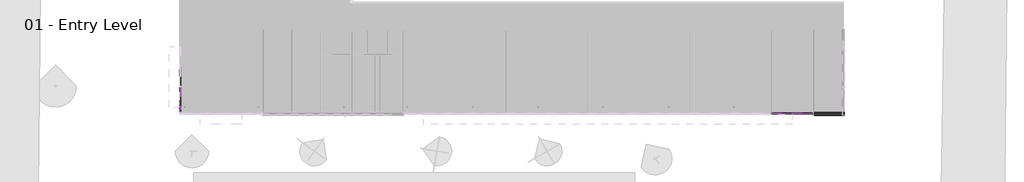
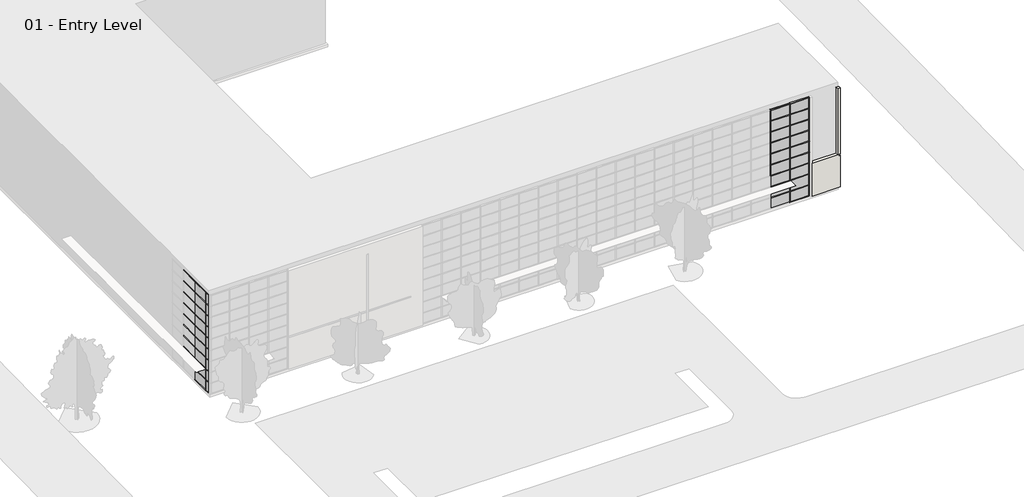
# One storey, part 6 of 34: 90 members, 36 plates, 1 wall.
"""IFC4 building model written with IfcOpenShell, lengths in millimetres."""

from ifc_helpers import new_model, si_unit, origin, place, context, project, spatial, faceted_brep, transform, mapped, element, save
from components import member_2b49869a, member_75074519, member_391b434c, member_9e90ae50, member_b9f3750b, member_757d0d80, system_panel_glazed_1b9d6098, system_panel_glazed_70da479d, system_panel_glazed_9ce660bb, system_panel_glazed_81ef7bb2, system_panel_solid_b376696c, system_panel_solid_77e8b053, system_panel_solid_a9b7ce64, system_panel_solid_b759d50d

model = new_model("IFC4")

# Units and contexts
model_context = context("Model", 3, world=origin())
ifc_project = project(units=[si_unit("LENGTHUNIT", "METRE", prefix="MILLI")], contexts=[model_context])

# Site, building, storey
site = spatial("IfcSite", under=ifc_project)
building = spatial("IfcBuilding", under=site)
storey = spatial("IfcBuildingStorey", under=building, Name="01 - Entry Level", Elevation=0.0)

# Members
placement = place(None, origin())
member_shape = member_2b49869a(model_context)
element("IfcMember", 1, ObjectType="Rectangular Mullion : 2.5\" x 5\" rectangular", at=placement, inside=storey, context=model_context, shape_type="MappedRepresentation", body=[
    mapped(member_shape, transform((59043.2207476, -47.7, 9753.6), x_axis=(1.0, 0.0, 0.0), y_axis=(0.0, -1.0, 0.0), z_axis=(0.0, 0.0, -1.0))),
])
element("IfcMember", 2, ObjectType="Rectangular Mullion : 2.5\" x 5\" rectangular", at=placement, inside=storey, context=model_context, shape_type="MappedRepresentation", body=[
    mapped(member_shape, transform((61075.2207476, -47.7, 9753.6), x_axis=(1.0, 0.0, 0.0), y_axis=(0.0, -1.0, 0.0), z_axis=(0.0, 0.0, -1.0))),
])
element("IfcMember", 3, ObjectType="Rectangular Mullion : 2.5\" x 5\" rectangular", at=placement, inside=storey, context=model_context, shape_type="MappedRepresentation", body=[
    mapped(member_shape, transform((63107.2207476, -47.7, 9753.6), x_axis=(1.0, 0.0, 0.0), y_axis=(0.0, -1.0, 0.0), z_axis=(0.0, 0.0, -1.0))),
])
element("IfcMember", 4, ObjectType="Rectangular Mullion : 2.5\" x 5\" rectangular", at=placement, inside=storey, context=model_context, shape_type="MappedRepresentation", body=[
    mapped(member_shape, transform((178.7207476, 600.0, 9753.6), x_axis=(0.0, -1.0, 0.0), y_axis=(-1.0, 0.0, 0.0), z_axis=(0.0, 0.0, -1.0))),
])
member_2_shape = member_75074519(model_context)
element("IfcMember", 5, ObjectType="Rectangular Mullion : 2.5\" x 5\" rectangular", at=placement, inside=storey, context=model_context, shape_type="MappedRepresentation", body=[
    mapped(member_2_shape, transform((63145.3207476, -47.7, 9753.6), x_axis=(1.0, 0.0, 0.0), y_axis=(0.0, -1.0, 0.0), z_axis=(0.0, 0.0, -1.0))),
])
member_3_shape = member_391b434c(model_context)
element("IfcMember", 6, ObjectType="Rectangular Mullion : 2.5\" x 5\" rectangular", at=placement, inside=storey, context=model_context, shape_type="MappedRepresentation", body=[
    mapped(member_3_shape, transform((178.7207476, 2663.75, 10972.8), x_axis=(0.0, 0.0, 1.0), y_axis=(-1.0, 0.0, 0.0), z_axis=(0.0, -1.0, 0.0))),
])
element("IfcMember", 7, ObjectType="Rectangular Mullion : 2.5\" x 5\" rectangular", at=placement, inside=storey, context=model_context, shape_type="MappedRepresentation", body=[
    mapped(member_3_shape, transform((61043.4707476, -47.7, 10972.8), x_axis=(0.0, 0.0, 1.0), y_axis=(0.0, -1.0, 0.0), z_axis=(1.0, 0.0, 0.0))),
])
element("IfcMember", 8, ObjectType="Rectangular Mullion : 2.5\" x 5\" rectangular", at=placement, inside=storey, context=model_context, shape_type="MappedRepresentation", body=[
    mapped(member_3_shape, transform((63075.4707476, -47.7, 10972.8), x_axis=(0.0, 0.0, 1.0), y_axis=(0.0, -1.0, 0.0), z_axis=(1.0, 0.0, 0.0))),
])
element("IfcMember", 9, ObjectType="Rectangular Mullion : 2.5\" x 5\" rectangular", at=placement, inside=storey, context=model_context, shape_type="MappedRepresentation", body=[
    mapped(member_3_shape, transform((178.7207476, 631.75, 10972.8), x_axis=(0.0, 0.0, 1.0), y_axis=(-1.0, 0.0, 0.0), z_axis=(0.0, -1.0, 0.0))),
])
element("IfcMember", 10, ObjectType="Rectangular Mullion : 2.5\" x 5\" rectangular", at=placement, inside=storey, context=model_context, shape_type="MappedRepresentation", body=[
    mapped(member_3_shape, transform((178.7207476, 2600.25, 0.0), x_axis=(0.0, 0.0, -1.0), y_axis=(-1.0, 0.0, 0.0), z_axis=(0.0, 1.0, 0.0))),
])
element("IfcMember", 11, ObjectType="Rectangular Mullion : 2.5\" x 5\" rectangular", at=placement, inside=storey, context=model_context, shape_type="MappedRepresentation", body=[
    mapped(member_3_shape, transform((61106.9707476, -47.7, 0.0), x_axis=(0.0, 0.0, -1.0), y_axis=(0.0, -1.0, 0.0), z_axis=(-1.0, 0.0, 0.0))),
])
member_4_shape = member_9e90ae50(model_context)
element("IfcMember", 12, ObjectType="Rectangular Mullion : 2.5\" x 5\" rectangular", at=placement, inside=storey, context=model_context, shape_type="MappedRepresentation", body=[
    mapped(member_4_shape, transform((178.7207476, 2663.75, 1219.2), x_axis=(0.0, 0.0, 1.0), y_axis=(-1.0, 0.0, 0.0), z_axis=(0.0, -1.0, 0.0))),
])
element("IfcMember", 13, ObjectType="Rectangular Mullion : 2.5\" x 5\" rectangular", at=placement, inside=storey, context=model_context, shape_type="MappedRepresentation", body=[
    mapped(member_4_shape, transform((178.7207476, 631.75, 1219.2), x_axis=(0.0, 0.0, 1.0), y_axis=(-1.0, 0.0, 0.0), z_axis=(0.0, -1.0, 0.0))),
])
element("IfcMember", 14, ObjectType="Rectangular Mullion : 2.5\" x 5\" rectangular", at=placement, inside=storey, context=model_context, shape_type="MappedRepresentation", body=[
    mapped(member_4_shape, transform((178.7207476, 2663.75, 2438.4), x_axis=(0.0, 0.0, 1.0), y_axis=(-1.0, 0.0, 0.0), z_axis=(0.0, -1.0, 0.0))),
])
element("IfcMember", 15, ObjectType="Rectangular Mullion : 2.5\" x 5\" rectangular", at=placement, inside=storey, context=model_context, shape_type="MappedRepresentation", body=[
    mapped(member_4_shape, transform((178.7207476, 631.75, 2438.4), x_axis=(0.0, 0.0, 1.0), y_axis=(-1.0, 0.0, 0.0), z_axis=(0.0, -1.0, 0.0))),
])
element("IfcMember", 16, ObjectType="Rectangular Mullion : 2.5\" x 5\" rectangular", at=placement, inside=storey, context=model_context, shape_type="MappedRepresentation", body=[
    mapped(member_4_shape, transform((178.7207476, 2663.75, 3657.6), x_axis=(0.0, 0.0, 1.0), y_axis=(-1.0, 0.0, 0.0), z_axis=(0.0, -1.0, 0.0))),
])
element("IfcMember", 17, ObjectType="Rectangular Mullion : 2.5\" x 5\" rectangular", at=placement, inside=storey, context=model_context, shape_type="MappedRepresentation", body=[
    mapped(member_4_shape, transform((178.7207476, 631.75, 3657.6), x_axis=(0.0, 0.0, 1.0), y_axis=(-1.0, 0.0, 0.0), z_axis=(0.0, -1.0, 0.0))),
])
element("IfcMember", 18, ObjectType="Rectangular Mullion : 2.5\" x 5\" rectangular", at=placement, inside=storey, context=model_context, shape_type="MappedRepresentation", body=[
    mapped(member_4_shape, transform((178.7207476, 2663.75, 4876.8), x_axis=(0.0, 0.0, 1.0), y_axis=(-1.0, 0.0, 0.0), z_axis=(0.0, -1.0, 0.0))),
])
element("IfcMember", 19, ObjectType="Rectangular Mullion : 2.5\" x 5\" rectangular", at=placement, inside=storey, context=model_context, shape_type="MappedRepresentation", body=[
    mapped(member_4_shape, transform((178.7207476, 631.75, 4876.8), x_axis=(0.0, 0.0, 1.0), y_axis=(-1.0, 0.0, 0.0), z_axis=(0.0, -1.0, 0.0))),
])
element("IfcMember", 20, ObjectType="Rectangular Mullion : 2.5\" x 5\" rectangular", at=placement, inside=storey, context=model_context, shape_type="MappedRepresentation", body=[
    mapped(member_4_shape, transform((178.7207476, 2663.75, 6096.0), x_axis=(0.0, 0.0, 1.0), y_axis=(-1.0, 0.0, 0.0), z_axis=(0.0, -1.0, 0.0))),
])
element("IfcMember", 21, ObjectType="Rectangular Mullion : 2.5\" x 5\" rectangular", at=placement, inside=storey, context=model_context, shape_type="MappedRepresentation", body=[
    mapped(member_4_shape, transform((178.7207476, 631.75, 6096.0), x_axis=(0.0, 0.0, 1.0), y_axis=(-1.0, 0.0, 0.0), z_axis=(0.0, -1.0, 0.0))),
])
element("IfcMember", 22, ObjectType="Rectangular Mullion : 2.5\" x 5\" rectangular", at=placement, inside=storey, context=model_context, shape_type="MappedRepresentation", body=[
    mapped(member_4_shape, transform((178.7207476, 2663.75, 7315.2), x_axis=(0.0, 0.0, 1.0), y_axis=(-1.0, 0.0, 0.0), z_axis=(0.0, -1.0, 0.0))),
])
element("IfcMember", 23, ObjectType="Rectangular Mullion : 2.5\" x 5\" rectangular", at=placement, inside=storey, context=model_context, shape_type="MappedRepresentation", body=[
    mapped(member_4_shape, transform((178.7207476, 631.75, 7315.2), x_axis=(0.0, 0.0, 1.0), y_axis=(-1.0, 0.0, 0.0), z_axis=(0.0, -1.0, 0.0))),
])
element("IfcMember", 24, ObjectType="Rectangular Mullion : 2.5\" x 5\" rectangular", at=placement, inside=storey, context=model_context, shape_type="MappedRepresentation", body=[
    mapped(member_4_shape, transform((178.7207476, 2663.75, 8534.4), x_axis=(0.0, 0.0, 1.0), y_axis=(-1.0, 0.0, 0.0), z_axis=(0.0, -1.0, 0.0))),
])
element("IfcMember", 25, ObjectType="Rectangular Mullion : 2.5\" x 5\" rectangular", at=placement, inside=storey, context=model_context, shape_type="MappedRepresentation", body=[
    mapped(member_4_shape, transform((178.7207476, 631.75, 8534.4), x_axis=(0.0, 0.0, 1.0), y_axis=(-1.0, 0.0, 0.0), z_axis=(0.0, -1.0, 0.0))),
])
element("IfcMember", 26, ObjectType="Rectangular Mullion : 2.5\" x 5\" rectangular", at=placement, inside=storey, context=model_context, shape_type="MappedRepresentation", body=[
    mapped(member_4_shape, transform((178.7207476, 2663.75, 9753.6), x_axis=(0.0, 0.0, 1.0), y_axis=(-1.0, 0.0, 0.0), z_axis=(0.0, -1.0, 0.0))),
])
element("IfcMember", 27, ObjectType="Rectangular Mullion : 2.5\" x 5\" rectangular", at=placement, inside=storey, context=model_context, shape_type="MappedRepresentation", body=[
    mapped(member_4_shape, transform((178.7207476, 631.75, 9753.6), x_axis=(0.0, 0.0, 1.0), y_axis=(-1.0, 0.0, 0.0), z_axis=(0.0, -1.0, 0.0))),
])
element("IfcMember", 28, ObjectType="Rectangular Mullion : 2.5\" x 5\" rectangular", at=placement, inside=storey, context=model_context, shape_type="MappedRepresentation", body=[
    mapped(member_4_shape, transform((61043.4707476, -47.7, 1219.2), x_axis=(0.0, 0.0, 1.0), y_axis=(0.0, -1.0, 0.0), z_axis=(1.0, 0.0, 0.0))),
])
element("IfcMember", 29, ObjectType="Rectangular Mullion : 2.5\" x 5\" rectangular", at=placement, inside=storey, context=model_context, shape_type="MappedRepresentation", body=[
    mapped(member_4_shape, transform((63075.4707476, -47.7, 1219.2), x_axis=(0.0, 0.0, 1.0), y_axis=(0.0, -1.0, 0.0), z_axis=(1.0, 0.0, 0.0))),
])
element("IfcMember", 30, ObjectType="Rectangular Mullion : 2.5\" x 5\" rectangular", at=placement, inside=storey, context=model_context, shape_type="MappedRepresentation", body=[
    mapped(member_4_shape, transform((61043.4707476, -47.7, 2438.4), x_axis=(0.0, 0.0, 1.0), y_axis=(0.0, -1.0, 0.0), z_axis=(1.0, 0.0, 0.0))),
])
element("IfcMember", 31, ObjectType="Rectangular Mullion : 2.5\" x 5\" rectangular", at=placement, inside=storey, context=model_context, shape_type="MappedRepresentation", body=[
    mapped(member_4_shape, transform((63075.4707476, -47.7, 2438.4), x_axis=(0.0, 0.0, 1.0), y_axis=(0.0, -1.0, 0.0), z_axis=(1.0, 0.0, 0.0))),
])
element("IfcMember", 32, ObjectType="Rectangular Mullion : 2.5\" x 5\" rectangular", at=placement, inside=storey, context=model_context, shape_type="MappedRepresentation", body=[
    mapped(member_4_shape, transform((61043.4707476, -47.7, 3657.6), x_axis=(0.0, 0.0, 1.0), y_axis=(0.0, -1.0, 0.0), z_axis=(1.0, 0.0, 0.0))),
])
element("IfcMember", 33, ObjectType="Rectangular Mullion : 2.5\" x 5\" rectangular", at=placement, inside=storey, context=model_context, shape_type="MappedRepresentation", body=[
    mapped(member_4_shape, transform((63075.4707476, -47.7, 3657.6), x_axis=(0.0, 0.0, 1.0), y_axis=(0.0, -1.0, 0.0), z_axis=(1.0, 0.0, 0.0))),
])
element("IfcMember", 34, ObjectType="Rectangular Mullion : 2.5\" x 5\" rectangular", at=placement, inside=storey, context=model_context, shape_type="MappedRepresentation", body=[
    mapped(member_4_shape, transform((61043.4707476, -47.7, 4876.8), x_axis=(0.0, 0.0, 1.0), y_axis=(0.0, -1.0, 0.0), z_axis=(1.0, 0.0, 0.0))),
])
element("IfcMember", 35, ObjectType="Rectangular Mullion : 2.5\" x 5\" rectangular", at=placement, inside=storey, context=model_context, shape_type="MappedRepresentation", body=[
    mapped(member_4_shape, transform((63075.4707476, -47.7, 4876.8), x_axis=(0.0, 0.0, 1.0), y_axis=(0.0, -1.0, 0.0), z_axis=(1.0, 0.0, 0.0))),
])
element("IfcMember", 36, ObjectType="Rectangular Mullion : 2.5\" x 5\" rectangular", at=placement, inside=storey, context=model_context, shape_type="MappedRepresentation", body=[
    mapped(member_4_shape, transform((61043.4707476, -47.7, 6096.0), x_axis=(0.0, 0.0, 1.0), y_axis=(0.0, -1.0, 0.0), z_axis=(1.0, 0.0, 0.0))),
])
element("IfcMember", 37, ObjectType="Rectangular Mullion : 2.5\" x 5\" rectangular", at=placement, inside=storey, context=model_context, shape_type="MappedRepresentation", body=[
    mapped(member_4_shape, transform((63075.4707476, -47.7, 6096.0), x_axis=(0.0, 0.0, 1.0), y_axis=(0.0, -1.0, 0.0), z_axis=(1.0, 0.0, 0.0))),
])
element("IfcMember", 38, ObjectType="Rectangular Mullion : 2.5\" x 5\" rectangular", at=placement, inside=storey, context=model_context, shape_type="MappedRepresentation", body=[
    mapped(member_4_shape, transform((61043.4707476, -47.7, 7315.2), x_axis=(0.0, 0.0, 1.0), y_axis=(0.0, -1.0, 0.0), z_axis=(1.0, 0.0, 0.0))),
])
element("IfcMember", 39, ObjectType="Rectangular Mullion : 2.5\" x 5\" rectangular", at=placement, inside=storey, context=model_context, shape_type="MappedRepresentation", body=[
    mapped(member_4_shape, transform((63075.4707476, -47.7, 7315.2), x_axis=(0.0, 0.0, 1.0), y_axis=(0.0, -1.0, 0.0), z_axis=(1.0, 0.0, 0.0))),
])
element("IfcMember", 40, ObjectType="Rectangular Mullion : 2.5\" x 5\" rectangular", at=placement, inside=storey, context=model_context, shape_type="MappedRepresentation", body=[
    mapped(member_4_shape, transform((61043.4707476, -47.7, 8534.4), x_axis=(0.0, 0.0, 1.0), y_axis=(0.0, -1.0, 0.0), z_axis=(1.0, 0.0, 0.0))),
])
element("IfcMember", 41, ObjectType="Rectangular Mullion : 2.5\" x 5\" rectangular", at=placement, inside=storey, context=model_context, shape_type="MappedRepresentation", body=[
    mapped(member_4_shape, transform((63075.4707476, -47.7, 8534.4), x_axis=(0.0, 0.0, 1.0), y_axis=(0.0, -1.0, 0.0), z_axis=(1.0, 0.0, 0.0))),
])
element("IfcMember", 42, ObjectType="Rectangular Mullion : 2.5\" x 5\" rectangular", at=placement, inside=storey, context=model_context, shape_type="MappedRepresentation", body=[
    mapped(member_4_shape, transform((61043.4707476, -47.7, 9753.6), x_axis=(0.0, 0.0, 1.0), y_axis=(0.0, -1.0, 0.0), z_axis=(1.0, 0.0, 0.0))),
])
element("IfcMember", 43, ObjectType="Rectangular Mullion : 2.5\" x 5\" rectangular", at=placement, inside=storey, context=model_context, shape_type="MappedRepresentation", body=[
    mapped(member_4_shape, transform((63075.4707476, -47.7, 9753.6), x_axis=(0.0, 0.0, 1.0), y_axis=(0.0, -1.0, 0.0), z_axis=(1.0, 0.0, 0.0))),
])
element("IfcMember", 44, ObjectType="Rectangular Mullion : 2.5\" x 5\" rectangular", at=placement, inside=storey, context=model_context, shape_type="MappedRepresentation", body=[
    mapped(member_shape, transform((61075.2207476, -47.7, 0.0), x_axis=(1.0, 0.0, 0.0), y_axis=(0.0, -1.0, 0.0), z_axis=(0.0, 0.0, -1.0))),
])
element("IfcMember", 45, ObjectType="Rectangular Mullion : 2.5\" x 5\" rectangular", at=placement, inside=storey, context=model_context, shape_type="MappedRepresentation", body=[
    mapped(member_shape, transform((63107.2207476, -47.7, 0.0), x_axis=(1.0, 0.0, 0.0), y_axis=(0.0, -1.0, 0.0), z_axis=(0.0, 0.0, -1.0))),
])
element("IfcMember", 46, ObjectType="Rectangular Mullion : 2.5\" x 5\" rectangular", at=placement, inside=storey, context=model_context, shape_type="MappedRepresentation", body=[
    mapped(member_shape, transform((178.7207476, 600.0, 0.0), x_axis=(0.0, -1.0, 0.0), y_axis=(-1.0, 0.0, 0.0), z_axis=(0.0, 0.0, -1.0))),
])
element("IfcMember", 47, ObjectType="Rectangular Mullion : 2.5\" x 5\" rectangular", at=placement, inside=storey, context=model_context, shape_type="MappedRepresentation", body=[
    mapped(member_shape, transform((61075.2207476, -47.7, 1219.2), x_axis=(1.0, 0.0, 0.0), y_axis=(0.0, -1.0, 0.0), z_axis=(0.0, 0.0, -1.0))),
])
element("IfcMember", 48, ObjectType="Rectangular Mullion : 2.5\" x 5\" rectangular", at=placement, inside=storey, context=model_context, shape_type="MappedRepresentation", body=[
    mapped(member_shape, transform((61075.2207476, -47.7, 2438.4), x_axis=(1.0, 0.0, 0.0), y_axis=(0.0, -1.0, 0.0), z_axis=(0.0, 0.0, -1.0))),
])
element("IfcMember", 49, ObjectType="Rectangular Mullion : 2.5\" x 5\" rectangular", at=placement, inside=storey, context=model_context, shape_type="MappedRepresentation", body=[
    mapped(member_shape, transform((59043.2207476, -47.7, 3657.6), x_axis=(1.0, 0.0, 0.0), y_axis=(0.0, -1.0, 0.0), z_axis=(0.0, 0.0, -1.0))),
])
element("IfcMember", 50, ObjectType="Rectangular Mullion : 2.5\" x 5\" rectangular", at=placement, inside=storey, context=model_context, shape_type="MappedRepresentation", body=[
    mapped(member_shape, transform((61075.2207476, -47.7, 3657.6), x_axis=(1.0, 0.0, 0.0), y_axis=(0.0, -1.0, 0.0), z_axis=(0.0, 0.0, -1.0))),
])
element("IfcMember", 51, ObjectType="Rectangular Mullion : 2.5\" x 5\" rectangular", at=placement, inside=storey, context=model_context, shape_type="MappedRepresentation", body=[
    mapped(member_shape, transform((59043.2207476, -47.7, 4876.8), x_axis=(1.0, 0.0, 0.0), y_axis=(0.0, -1.0, 0.0), z_axis=(0.0, 0.0, -1.0))),
])
element("IfcMember", 52, ObjectType="Rectangular Mullion : 2.5\" x 5\" rectangular", at=placement, inside=storey, context=model_context, shape_type="MappedRepresentation", body=[
    mapped(member_shape, transform((61075.2207476, -47.7, 4876.8), x_axis=(1.0, 0.0, 0.0), y_axis=(0.0, -1.0, 0.0), z_axis=(0.0, 0.0, -1.0))),
])
element("IfcMember", 53, ObjectType="Rectangular Mullion : 2.5\" x 5\" rectangular", at=placement, inside=storey, context=model_context, shape_type="MappedRepresentation", body=[
    mapped(member_shape, transform((59043.2207476, -47.7, 6096.0), x_axis=(1.0, 0.0, 0.0), y_axis=(0.0, -1.0, 0.0), z_axis=(0.0, 0.0, -1.0))),
])
element("IfcMember", 54, ObjectType="Rectangular Mullion : 2.5\" x 5\" rectangular", at=placement, inside=storey, context=model_context, shape_type="MappedRepresentation", body=[
    mapped(member_shape, transform((61075.2207476, -47.7, 6096.0), x_axis=(1.0, 0.0, 0.0), y_axis=(0.0, -1.0, 0.0), z_axis=(0.0, 0.0, -1.0))),
])
element("IfcMember", 55, ObjectType="Rectangular Mullion : 2.5\" x 5\" rectangular", at=placement, inside=storey, context=model_context, shape_type="MappedRepresentation", body=[
    mapped(member_shape, transform((59043.2207476, -47.7, 7315.2), x_axis=(1.0, 0.0, 0.0), y_axis=(0.0, -1.0, 0.0), z_axis=(0.0, 0.0, -1.0))),
])
element("IfcMember", 56, ObjectType="Rectangular Mullion : 2.5\" x 5\" rectangular", at=placement, inside=storey, context=model_context, shape_type="MappedRepresentation", body=[
    mapped(member_shape, transform((61075.2207476, -47.7, 7315.2), x_axis=(1.0, 0.0, 0.0), y_axis=(0.0, -1.0, 0.0), z_axis=(0.0, 0.0, -1.0))),
])
element("IfcMember", 57, ObjectType="Rectangular Mullion : 2.5\" x 5\" rectangular", at=placement, inside=storey, context=model_context, shape_type="MappedRepresentation", body=[
    mapped(member_shape, transform((59043.2207476, -47.7, 8534.4), x_axis=(1.0, 0.0, 0.0), y_axis=(0.0, -1.0, 0.0), z_axis=(0.0, 0.0, -1.0))),
])
element("IfcMember", 58, ObjectType="Rectangular Mullion : 2.5\" x 5\" rectangular", at=placement, inside=storey, context=model_context, shape_type="MappedRepresentation", body=[
    mapped(member_shape, transform((61075.2207476, -47.7, 8534.4), x_axis=(1.0, 0.0, 0.0), y_axis=(0.0, -1.0, 0.0), z_axis=(0.0, 0.0, -1.0))),
])
element("IfcMember", 59, ObjectType="Rectangular Mullion : 2.5\" x 5\" rectangular", at=placement, inside=storey, context=model_context, shape_type="MappedRepresentation", body=[
    mapped(member_shape, transform((63107.2207476, -47.7, 1219.2), x_axis=(1.0, 0.0, 0.0), y_axis=(0.0, -1.0, 0.0), z_axis=(0.0, 0.0, -1.0))),
])
element("IfcMember", 60, ObjectType="Rectangular Mullion : 2.5\" x 5\" rectangular", at=placement, inside=storey, context=model_context, shape_type="MappedRepresentation", body=[
    mapped(member_shape, transform((63107.2207476, -47.7, 2438.4), x_axis=(1.0, 0.0, 0.0), y_axis=(0.0, -1.0, 0.0), z_axis=(0.0, 0.0, -1.0))),
])
element("IfcMember", 61, ObjectType="Rectangular Mullion : 2.5\" x 5\" rectangular", at=placement, inside=storey, context=model_context, shape_type="MappedRepresentation", body=[
    mapped(member_shape, transform((63107.2207476, -47.7, 3657.6), x_axis=(1.0, 0.0, 0.0), y_axis=(0.0, -1.0, 0.0), z_axis=(0.0, 0.0, -1.0))),
])
element("IfcMember", 62, ObjectType="Rectangular Mullion : 2.5\" x 5\" rectangular", at=placement, inside=storey, context=model_context, shape_type="MappedRepresentation", body=[
    mapped(member_shape, transform((63107.2207476, -47.7, 4876.8), x_axis=(1.0, 0.0, 0.0), y_axis=(0.0, -1.0, 0.0), z_axis=(0.0, 0.0, -1.0))),
])
element("IfcMember", 63, ObjectType="Rectangular Mullion : 2.5\" x 5\" rectangular", at=placement, inside=storey, context=model_context, shape_type="MappedRepresentation", body=[
    mapped(member_shape, transform((63107.2207476, -47.7, 6096.0), x_axis=(1.0, 0.0, 0.0), y_axis=(0.0, -1.0, 0.0), z_axis=(0.0, 0.0, -1.0))),
])
element("IfcMember", 64, ObjectType="Rectangular Mullion : 2.5\" x 5\" rectangular", at=placement, inside=storey, context=model_context, shape_type="MappedRepresentation", body=[
    mapped(member_shape, transform((63107.2207476, -47.7, 7315.2), x_axis=(1.0, 0.0, 0.0), y_axis=(0.0, -1.0, 0.0), z_axis=(0.0, 0.0, -1.0))),
])
element("IfcMember", 65, ObjectType="Rectangular Mullion : 2.5\" x 5\" rectangular", at=placement, inside=storey, context=model_context, shape_type="MappedRepresentation", body=[
    mapped(member_shape, transform((63107.2207476, -47.7, 8534.4), x_axis=(1.0, 0.0, 0.0), y_axis=(0.0, -1.0, 0.0), z_axis=(0.0, 0.0, -1.0))),
])
element("IfcMember", 66, ObjectType="Rectangular Mullion : 2.5\" x 5\" rectangular", at=placement, inside=storey, context=model_context, shape_type="MappedRepresentation", body=[
    mapped(member_shape, transform((178.7207476, 600.0, 1219.2), x_axis=(0.0, -1.0, 0.0), y_axis=(-1.0, 0.0, 0.0), z_axis=(0.0, 0.0, -1.0))),
])
element("IfcMember", 67, ObjectType="Rectangular Mullion : 2.5\" x 5\" rectangular", at=placement, inside=storey, context=model_context, shape_type="MappedRepresentation", body=[
    mapped(member_shape, transform((178.7207476, 600.0, 2438.4), x_axis=(0.0, -1.0, 0.0), y_axis=(-1.0, 0.0, 0.0), z_axis=(0.0, 0.0, -1.0))),
])
element("IfcMember", 68, ObjectType="Rectangular Mullion : 2.5\" x 5\" rectangular", at=placement, inside=storey, context=model_context, shape_type="MappedRepresentation", body=[
    mapped(member_shape, transform((178.7207476, 600.0, 3657.6), x_axis=(0.0, -1.0, 0.0), y_axis=(-1.0, 0.0, 0.0), z_axis=(0.0, 0.0, -1.0))),
])
element("IfcMember", 69, ObjectType="Rectangular Mullion : 2.5\" x 5\" rectangular", at=placement, inside=storey, context=model_context, shape_type="MappedRepresentation", body=[
    mapped(member_shape, transform((178.7207476, 600.0, 4876.8), x_axis=(0.0, -1.0, 0.0), y_axis=(-1.0, 0.0, 0.0), z_axis=(0.0, 0.0, -1.0))),
])
element("IfcMember", 70, ObjectType="Rectangular Mullion : 2.5\" x 5\" rectangular", at=placement, inside=storey, context=model_context, shape_type="MappedRepresentation", body=[
    mapped(member_shape, transform((178.7207476, 600.0, 6096.0), x_axis=(0.0, -1.0, 0.0), y_axis=(-1.0, 0.0, 0.0), z_axis=(0.0, 0.0, -1.0))),
])
element("IfcMember", 71, ObjectType="Rectangular Mullion : 2.5\" x 5\" rectangular", at=placement, inside=storey, context=model_context, shape_type="MappedRepresentation", body=[
    mapped(member_shape, transform((178.7207476, 600.0, 7315.2), x_axis=(0.0, -1.0, 0.0), y_axis=(-1.0, 0.0, 0.0), z_axis=(0.0, 0.0, -1.0))),
])
element("IfcMember", 72, ObjectType="Rectangular Mullion : 2.5\" x 5\" rectangular", at=placement, inside=storey, context=model_context, shape_type="MappedRepresentation", body=[
    mapped(member_shape, transform((178.7207476, 600.0, 8534.4), x_axis=(0.0, -1.0, 0.0), y_axis=(-1.0, 0.0, 0.0), z_axis=(0.0, 0.0, -1.0))),
])
element("IfcMember", 73, ObjectType="Rectangular Mullion : 2.5\" x 5\" rectangular", at=placement, inside=storey, context=model_context, shape_type="MappedRepresentation", body=[
    mapped(member_2_shape, transform((63145.3207476, -47.7, 0.0), x_axis=(1.0, 0.0, 0.0), y_axis=(0.0, -1.0, 0.0), z_axis=(0.0, 0.0, -1.0))),
])
element("IfcMember", 74, ObjectType="Rectangular Mullion : 2.5\" x 5\" rectangular", at=placement, inside=storey, context=model_context, shape_type="MappedRepresentation", body=[
    mapped(member_2_shape, transform((63145.3207476, -47.7, 1219.2), x_axis=(1.0, 0.0, 0.0), y_axis=(0.0, -1.0, 0.0), z_axis=(0.0, 0.0, -1.0))),
])
element("IfcMember", 75, ObjectType="Rectangular Mullion : 2.5\" x 5\" rectangular", at=placement, inside=storey, context=model_context, shape_type="MappedRepresentation", body=[
    mapped(member_2_shape, transform((63145.3207476, -47.7, 2438.4), x_axis=(1.0, 0.0, 0.0), y_axis=(0.0, -1.0, 0.0), z_axis=(0.0, 0.0, -1.0))),
])
element("IfcMember", 76, ObjectType="Rectangular Mullion : 2.5\" x 5\" rectangular", at=placement, inside=storey, context=model_context, shape_type="MappedRepresentation", body=[
    mapped(member_2_shape, transform((63145.3207476, -47.7, 3657.6), x_axis=(1.0, 0.0, 0.0), y_axis=(0.0, -1.0, 0.0), z_axis=(0.0, 0.0, -1.0))),
])
element("IfcMember", 77, ObjectType="Rectangular Mullion : 2.5\" x 5\" rectangular", at=placement, inside=storey, context=model_context, shape_type="MappedRepresentation", body=[
    mapped(member_2_shape, transform((63145.3207476, -47.7, 4876.8), x_axis=(1.0, 0.0, 0.0), y_axis=(0.0, -1.0, 0.0), z_axis=(0.0, 0.0, -1.0))),
])
element("IfcMember", 78, ObjectType="Rectangular Mullion : 2.5\" x 5\" rectangular", at=placement, inside=storey, context=model_context, shape_type="MappedRepresentation", body=[
    mapped(member_2_shape, transform((63145.3207476, -47.7, 6096.0), x_axis=(1.0, 0.0, 0.0), y_axis=(0.0, -1.0, 0.0), z_axis=(0.0, 0.0, -1.0))),
])
element("IfcMember", 79, ObjectType="Rectangular Mullion : 2.5\" x 5\" rectangular", at=placement, inside=storey, context=model_context, shape_type="MappedRepresentation", body=[
    mapped(member_2_shape, transform((63145.3207476, -47.7, 7315.2), x_axis=(1.0, 0.0, 0.0), y_axis=(0.0, -1.0, 0.0), z_axis=(0.0, 0.0, -1.0))),
])
element("IfcMember", 80, ObjectType="Rectangular Mullion : 2.5\" x 5\" rectangular", at=placement, inside=storey, context=model_context, shape_type="MappedRepresentation", body=[
    mapped(member_2_shape, transform((63145.3207476, -47.7, 8534.4), x_axis=(1.0, 0.0, 0.0), y_axis=(0.0, -1.0, 0.0), z_axis=(0.0, 0.0, -1.0))),
])
member_5_shape = member_b9f3750b(model_context)
element("IfcMember", 81, ObjectType="Rectangular Mullion : 2.5\" x 5\" rectangular", at=placement, inside=storey, context=model_context, shape_type="MappedRepresentation", body=[
    mapped(member_5_shape, transform((178.7207476, 79.3, 10972.8), x_axis=(0.0, 0.0, 1.0), y_axis=(-1.0, 0.0, 0.0), z_axis=(0.0, -1.0, 0.0))),
])
element("IfcMember", 82, ObjectType="Rectangular Mullion : 2.5\" x 5\" rectangular", at=placement, inside=storey, context=model_context, shape_type="MappedRepresentation", body=[
    mapped(member_5_shape, transform((178.7207476, 568.25, 0.0), x_axis=(0.0, 0.0, -1.0), y_axis=(-1.0, 0.0, 0.0), z_axis=(0.0, 1.0, 0.0))),
])
member_6_shape = member_757d0d80(model_context)
element("IfcMember", 83, ObjectType="Rectangular Mullion : 2.5\" x 5\" rectangular", at=placement, inside=storey, context=model_context, shape_type="MappedRepresentation", body=[
    mapped(member_6_shape, transform((178.7207476, 79.3, 1219.2), x_axis=(0.0, 0.0, 1.0), y_axis=(-1.0, 0.0, 0.0), z_axis=(0.0, -1.0, 0.0))),
])
element("IfcMember", 84, ObjectType="Rectangular Mullion : 2.5\" x 5\" rectangular", at=placement, inside=storey, context=model_context, shape_type="MappedRepresentation", body=[
    mapped(member_6_shape, transform((178.7207476, 79.3, 2438.4), x_axis=(0.0, 0.0, 1.0), y_axis=(-1.0, 0.0, 0.0), z_axis=(0.0, -1.0, 0.0))),
])
element("IfcMember", 85, ObjectType="Rectangular Mullion : 2.5\" x 5\" rectangular", at=placement, inside=storey, context=model_context, shape_type="MappedRepresentation", body=[
    mapped(member_6_shape, transform((178.7207476, 79.3, 3657.6), x_axis=(0.0, 0.0, 1.0), y_axis=(-1.0, 0.0, 0.0), z_axis=(0.0, -1.0, 0.0))),
])
element("IfcMember", 86, ObjectType="Rectangular Mullion : 2.5\" x 5\" rectangular", at=placement, inside=storey, context=model_context, shape_type="MappedRepresentation", body=[
    mapped(member_6_shape, transform((178.7207476, 79.3, 4876.8), x_axis=(0.0, 0.0, 1.0), y_axis=(-1.0, 0.0, 0.0), z_axis=(0.0, -1.0, 0.0))),
])
element("IfcMember", 87, ObjectType="Rectangular Mullion : 2.5\" x 5\" rectangular", at=placement, inside=storey, context=model_context, shape_type="MappedRepresentation", body=[
    mapped(member_6_shape, transform((178.7207476, 79.3, 6096.0), x_axis=(0.0, 0.0, 1.0), y_axis=(-1.0, 0.0, 0.0), z_axis=(0.0, -1.0, 0.0))),
])
element("IfcMember", 88, ObjectType="Rectangular Mullion : 2.5\" x 5\" rectangular", at=placement, inside=storey, context=model_context, shape_type="MappedRepresentation", body=[
    mapped(member_6_shape, transform((178.7207476, 79.3, 7315.2), x_axis=(0.0, 0.0, 1.0), y_axis=(-1.0, 0.0, 0.0), z_axis=(0.0, -1.0, 0.0))),
])
element("IfcMember", 89, ObjectType="Rectangular Mullion : 2.5\" x 5\" rectangular", at=placement, inside=storey, context=model_context, shape_type="MappedRepresentation", body=[
    mapped(member_6_shape, transform((178.7207476, 79.3, 8534.4), x_axis=(0.0, 0.0, 1.0), y_axis=(-1.0, 0.0, 0.0), z_axis=(0.0, -1.0, 0.0))),
])
element("IfcMember", 90, ObjectType="Rectangular Mullion : 2.5\" x 5\" rectangular", at=placement, inside=storey, context=model_context, shape_type="MappedRepresentation", body=[
    mapped(member_6_shape, transform((178.7207476, 79.3, 9753.6), x_axis=(0.0, 0.0, 1.0), y_axis=(-1.0, 0.0, 0.0), z_axis=(0.0, -1.0, 0.0))),
])

# Plates
system_panel_glazed_shape = system_panel_glazed_1b9d6098(model_context)
element("IfcPlate", 91, ObjectType="System Panel : Glazed", at=placement, inside=storey, context=model_context, shape_type="MappedRepresentation", body=[
    mapped(system_panel_glazed_shape, transform((60059.2207476, -47.7, 63.5), x_axis=(1.0, 0.0, 0.0), y_axis=(0.0, 1.0, 0.0), z_axis=(0.0, 0.0, 1.0))),
])
element("IfcPlate", 92, ObjectType="System Panel : Glazed", at=placement, inside=storey, context=model_context, shape_type="MappedRepresentation", body=[
    mapped(system_panel_glazed_shape, transform((62091.2207476, -47.7, 63.5), x_axis=(1.0, 0.0, 0.0), y_axis=(0.0, 1.0, 0.0), z_axis=(0.0, 0.0, 1.0))),
])
element("IfcPlate", 93, ObjectType="System Panel : Glazed", at=placement, inside=storey, context=model_context, shape_type="MappedRepresentation", body=[
    mapped(system_panel_glazed_shape, transform((178.7207476, 1616.0, 63.5), x_axis=(0.0, -1.0, 0.0), y_axis=(1.0, 0.0, 0.0), z_axis=(0.0, 0.0, 1.0))),
])
system_panel_glazed_2_shape = system_panel_glazed_70da479d(model_context)
element("IfcPlate", 94, ObjectType="System Panel : Glazed", at=placement, inside=storey, context=model_context, shape_type="MappedRepresentation", body=[
    mapped(system_panel_glazed_2_shape, transform((60059.2207476, -47.7, 1250.95), x_axis=(1.0, 0.0, 0.0), y_axis=(0.0, 1.0, 0.0), z_axis=(0.0, 0.0, 1.0))),
])
element("IfcPlate", 95, ObjectType="System Panel : Glazed", at=placement, inside=storey, context=model_context, shape_type="MappedRepresentation", body=[
    mapped(system_panel_glazed_2_shape, transform((62091.2207476, -47.7, 1250.95), x_axis=(1.0, 0.0, 0.0), y_axis=(0.0, 1.0, 0.0), z_axis=(0.0, 0.0, 1.0))),
])
element("IfcPlate", 96, ObjectType="System Panel : Glazed", at=placement, inside=storey, context=model_context, shape_type="MappedRepresentation", body=[
    mapped(system_panel_glazed_2_shape, transform((60059.2207476, -47.7, 3689.35), x_axis=(1.0, 0.0, 0.0), y_axis=(0.0, 1.0, 0.0), z_axis=(0.0, 0.0, 1.0))),
])
element("IfcPlate", 97, ObjectType="System Panel : Glazed", at=placement, inside=storey, context=model_context, shape_type="MappedRepresentation", body=[
    mapped(system_panel_glazed_2_shape, transform((62091.2207476, -47.7, 3689.35), x_axis=(1.0, 0.0, 0.0), y_axis=(0.0, 1.0, 0.0), z_axis=(0.0, 0.0, 1.0))),
])
element("IfcPlate", 98, ObjectType="System Panel : Glazed", at=placement, inside=storey, context=model_context, shape_type="MappedRepresentation", body=[
    mapped(system_panel_glazed_2_shape, transform((60059.2207476, -47.7, 4908.55), x_axis=(1.0, 0.0, 0.0), y_axis=(0.0, 1.0, 0.0), z_axis=(0.0, 0.0, 1.0))),
])
element("IfcPlate", 99, ObjectType="System Panel : Glazed", at=placement, inside=storey, context=model_context, shape_type="MappedRepresentation", body=[
    mapped(system_panel_glazed_2_shape, transform((62091.2207476, -47.7, 4908.55), x_axis=(1.0, 0.0, 0.0), y_axis=(0.0, 1.0, 0.0), z_axis=(0.0, 0.0, 1.0))),
])
element("IfcPlate", 100, ObjectType="System Panel : Glazed", at=placement, inside=storey, context=model_context, shape_type="MappedRepresentation", body=[
    mapped(system_panel_glazed_2_shape, transform((60059.2207476, -47.7, 7346.95), x_axis=(1.0, 0.0, 0.0), y_axis=(0.0, 1.0, 0.0), z_axis=(0.0, 0.0, 1.0))),
])
element("IfcPlate", 101, ObjectType="System Panel : Glazed", at=placement, inside=storey, context=model_context, shape_type="MappedRepresentation", body=[
    mapped(system_panel_glazed_2_shape, transform((62091.2207476, -47.7, 7346.95), x_axis=(1.0, 0.0, 0.0), y_axis=(0.0, 1.0, 0.0), z_axis=(0.0, 0.0, 1.0))),
])
element("IfcPlate", 102, ObjectType="System Panel : Glazed", at=placement, inside=storey, context=model_context, shape_type="MappedRepresentation", body=[
    mapped(system_panel_glazed_2_shape, transform((60059.2207476, -47.7, 8566.15), x_axis=(1.0, 0.0, 0.0), y_axis=(0.0, 1.0, 0.0), z_axis=(0.0, 0.0, 1.0))),
])
element("IfcPlate", 103, ObjectType="System Panel : Glazed", at=placement, inside=storey, context=model_context, shape_type="MappedRepresentation", body=[
    mapped(system_panel_glazed_2_shape, transform((62091.2207476, -47.7, 8566.15), x_axis=(1.0, 0.0, 0.0), y_axis=(0.0, 1.0, 0.0), z_axis=(0.0, 0.0, 1.0))),
])
element("IfcPlate", 104, ObjectType="System Panel : Glazed", at=placement, inside=storey, context=model_context, shape_type="MappedRepresentation", body=[
    mapped(system_panel_glazed_2_shape, transform((178.7207476, 1616.0, 1250.95), x_axis=(0.0, -1.0, 0.0), y_axis=(1.0, 0.0, 0.0), z_axis=(0.0, 0.0, 1.0))),
])
element("IfcPlate", 105, ObjectType="System Panel : Glazed", at=placement, inside=storey, context=model_context, shape_type="MappedRepresentation", body=[
    mapped(system_panel_glazed_2_shape, transform((178.7207476, 1616.0, 3689.35), x_axis=(0.0, -1.0, 0.0), y_axis=(1.0, 0.0, 0.0), z_axis=(0.0, 0.0, 1.0))),
])
element("IfcPlate", 106, ObjectType="System Panel : Glazed", at=placement, inside=storey, context=model_context, shape_type="MappedRepresentation", body=[
    mapped(system_panel_glazed_2_shape, transform((178.7207476, 1616.0, 4908.55), x_axis=(0.0, -1.0, 0.0), y_axis=(1.0, 0.0, 0.0), z_axis=(0.0, 0.0, 1.0))),
])
element("IfcPlate", 107, ObjectType="System Panel : Glazed", at=placement, inside=storey, context=model_context, shape_type="MappedRepresentation", body=[
    mapped(system_panel_glazed_2_shape, transform((178.7207476, 1616.0, 7346.95), x_axis=(0.0, -1.0, 0.0), y_axis=(1.0, 0.0, 0.0), z_axis=(0.0, 0.0, 1.0))),
])
element("IfcPlate", 108, ObjectType="System Panel : Glazed", at=placement, inside=storey, context=model_context, shape_type="MappedRepresentation", body=[
    mapped(system_panel_glazed_2_shape, transform((178.7207476, 1616.0, 8566.15), x_axis=(0.0, -1.0, 0.0), y_axis=(1.0, 0.0, 0.0), z_axis=(0.0, 0.0, 1.0))),
])
system_panel_glazed_3_shape = system_panel_glazed_9ce660bb(model_context)
element("IfcPlate", 109, ObjectType="System Panel : Glazed", at=placement, inside=storey, context=model_context, shape_type="MappedRepresentation", body=[
    mapped(system_panel_glazed_3_shape, transform((178.7207476, 323.775, 63.5), x_axis=(0.0, -1.0, 0.0), y_axis=(1.0, 0.0, 0.0), z_axis=(0.0, 0.0, 1.0))),
])
system_panel_glazed_4_shape = system_panel_glazed_81ef7bb2(model_context)
element("IfcPlate", 110, ObjectType="System Panel : Glazed", at=placement, inside=storey, context=model_context, shape_type="MappedRepresentation", body=[
    mapped(system_panel_glazed_4_shape, transform((178.7207476, 323.775, 1250.95), x_axis=(0.0, -1.0, 0.0), y_axis=(1.0, 0.0, 0.0), z_axis=(0.0, 0.0, 1.0))),
])
element("IfcPlate", 111, ObjectType="System Panel : Glazed", at=placement, inside=storey, context=model_context, shape_type="MappedRepresentation", body=[
    mapped(system_panel_glazed_4_shape, transform((178.7207476, 323.775, 3689.35), x_axis=(0.0, -1.0, 0.0), y_axis=(1.0, 0.0, 0.0), z_axis=(0.0, 0.0, 1.0))),
])
element("IfcPlate", 112, ObjectType="System Panel : Glazed", at=placement, inside=storey, context=model_context, shape_type="MappedRepresentation", body=[
    mapped(system_panel_glazed_4_shape, transform((178.7207476, 323.775, 4908.55), x_axis=(0.0, -1.0, 0.0), y_axis=(1.0, 0.0, 0.0), z_axis=(0.0, 0.0, 1.0))),
])
element("IfcPlate", 113, ObjectType="System Panel : Glazed", at=placement, inside=storey, context=model_context, shape_type="MappedRepresentation", body=[
    mapped(system_panel_glazed_4_shape, transform((178.7207476, 323.775, 7346.95), x_axis=(0.0, -1.0, 0.0), y_axis=(1.0, 0.0, 0.0), z_axis=(0.0, 0.0, 1.0))),
])
element("IfcPlate", 114, ObjectType="System Panel : Glazed", at=placement, inside=storey, context=model_context, shape_type="MappedRepresentation", body=[
    mapped(system_panel_glazed_4_shape, transform((178.7207476, 323.775, 8566.15), x_axis=(0.0, -1.0, 0.0), y_axis=(1.0, 0.0, 0.0), z_axis=(0.0, 0.0, 1.0))),
])
system_panel_solid_shape = system_panel_solid_b376696c(model_context)
element("IfcPlate", 115, ObjectType="System Panel : Solid", at=placement, inside=storey, context=model_context, shape_type="MappedRepresentation", body=[
    mapped(system_panel_solid_shape, transform((60059.2207476, -47.7, 9785.35), x_axis=(1.0, 0.0, 0.0), y_axis=(0.0, 1.0, 0.0), z_axis=(0.0, 0.0, 1.0))),
])
element("IfcPlate", 116, ObjectType="System Panel : Solid", at=placement, inside=storey, context=model_context, shape_type="MappedRepresentation", body=[
    mapped(system_panel_solid_shape, transform((62091.2207476, -47.7, 9785.35), x_axis=(1.0, 0.0, 0.0), y_axis=(0.0, 1.0, 0.0), z_axis=(0.0, 0.0, 1.0))),
])
element("IfcPlate", 117, ObjectType="System Panel : Solid", at=placement, inside=storey, context=model_context, shape_type="MappedRepresentation", body=[
    mapped(system_panel_solid_shape, transform((178.7207476, 1616.0, 9785.35), x_axis=(0.0, -1.0, 0.0), y_axis=(1.0, 0.0, 0.0), z_axis=(0.0, 0.0, 1.0))),
])
system_panel_solid_2_shape = system_panel_solid_77e8b053(model_context)
element("IfcPlate", 118, ObjectType="System Panel : Solid", at=placement, inside=storey, context=model_context, shape_type="MappedRepresentation", body=[
    mapped(system_panel_solid_2_shape, transform((60059.2207476, -47.7, 2470.15), x_axis=(1.0, 0.0, 0.0), y_axis=(0.0, 1.0, 0.0), z_axis=(0.0, 0.0, 1.0))),
])
element("IfcPlate", 119, ObjectType="System Panel : Solid", at=placement, inside=storey, context=model_context, shape_type="MappedRepresentation", body=[
    mapped(system_panel_solid_2_shape, transform((62091.2207476, -47.7, 2470.15), x_axis=(1.0, 0.0, 0.0), y_axis=(0.0, 1.0, 0.0), z_axis=(0.0, 0.0, 1.0))),
])
element("IfcPlate", 120, ObjectType="System Panel : Solid", at=placement, inside=storey, context=model_context, shape_type="MappedRepresentation", body=[
    mapped(system_panel_solid_2_shape, transform((60059.2207476, -47.7, 6127.75), x_axis=(1.0, 0.0, 0.0), y_axis=(0.0, 1.0, 0.0), z_axis=(0.0, 0.0, 1.0))),
])
element("IfcPlate", 121, ObjectType="System Panel : Solid", at=placement, inside=storey, context=model_context, shape_type="MappedRepresentation", body=[
    mapped(system_panel_solid_2_shape, transform((62091.2207476, -47.7, 6127.75), x_axis=(1.0, 0.0, 0.0), y_axis=(0.0, 1.0, 0.0), z_axis=(0.0, 0.0, 1.0))),
])
element("IfcPlate", 122, ObjectType="System Panel : Solid", at=placement, inside=storey, context=model_context, shape_type="MappedRepresentation", body=[
    mapped(system_panel_solid_2_shape, transform((178.7207476, 1616.0, 2470.15), x_axis=(0.0, -1.0, 0.0), y_axis=(1.0, 0.0, 0.0), z_axis=(0.0, 0.0, 1.0))),
])
element("IfcPlate", 123, ObjectType="System Panel : Solid", at=placement, inside=storey, context=model_context, shape_type="MappedRepresentation", body=[
    mapped(system_panel_solid_2_shape, transform((178.7207476, 1616.0, 6127.75), x_axis=(0.0, -1.0, 0.0), y_axis=(1.0, 0.0, 0.0), z_axis=(0.0, 0.0, 1.0))),
])
system_panel_solid_3_shape = system_panel_solid_a9b7ce64(model_context)
element("IfcPlate", 124, ObjectType="System Panel : Solid", at=placement, inside=storey, context=model_context, shape_type="MappedRepresentation", body=[
    mapped(system_panel_solid_3_shape, transform((178.7207476, 323.775, 2470.15), x_axis=(0.0, -1.0, 0.0), y_axis=(1.0, 0.0, 0.0), z_axis=(0.0, 0.0, 1.0))),
])
element("IfcPlate", 125, ObjectType="System Panel : Solid", at=placement, inside=storey, context=model_context, shape_type="MappedRepresentation", body=[
    mapped(system_panel_solid_3_shape, transform((178.7207476, 323.775, 6127.75), x_axis=(0.0, -1.0, 0.0), y_axis=(1.0, 0.0, 0.0), z_axis=(0.0, 0.0, 1.0))),
])
system_panel_solid_4_shape = system_panel_solid_b759d50d(model_context)
element("IfcPlate", 126, ObjectType="System Panel : Solid", at=placement, inside=storey, context=model_context, shape_type="MappedRepresentation", body=[
    mapped(system_panel_solid_4_shape, transform((178.7207476, 323.775, 9785.35), x_axis=(0.0, -1.0, 0.0), y_axis=(1.0, 0.0, 0.0), z_axis=(0.0, 0.0, 1.0))),
])

# Wall
element("IfcWall", 127, ObjectType="Exterior - EIFS on CMU", at=placement, inside=storey, context=model_context, shape_type="Brep", body=[
    faceted_brep([(63348.5207476, -254.075, 0.0), (66310.7957476, -254.075, 0.0), (66310.7957476, -254.075, 3505.2), (66158.3957476, -254.075, 3505.2), (66158.3957476, -254.075, 3657.6), (66310.7957476, -254.075, 3657.6), (66310.7957476, -254.075, 10972.8), (66015.5207476, -254.075, 10972.8), (66002.8207476, -254.075, 10972.8), (66002.8207476, -254.075, 3657.6), (63348.5207476, -254.075, 3657.6), (66310.7957476, 53.9, 0.0), (66002.8207476, 53.9, 0.0), (63348.5207476, 53.9, 0.0), (63348.5207476, 53.9, 3657.6), (66002.8207476, 53.9, 3657.6), (66002.8207476, 53.9, 10972.8), (66310.7957476, 53.9, 10972.8), (66310.7957476, 53.9, 3657.6), (66158.3957476, 53.9, 3657.6), (66158.3957476, 53.9, 3505.2), (66310.7957476, 53.9, 3505.2)], [[[0, 1, 2, 3, 4, 5, 6, 7, 8, 9, 10]], [[11, 12, 13, 14, 15, 16, 17, 18, 19, 20, 21]], [[1, 0, 13, 12, 11]], [[6, 17, 16, 8, 7]], [[1, 11, 21, 2]], [[17, 6, 5, 18]], [[13, 0, 10, 14]], [[15, 9, 8, 16]], [[9, 15, 14, 10]], [[4, 19, 18, 5]], [[19, 4, 3, 20]], [[20, 3, 2, 21]]]),
])

save(model, "model.ifc")
